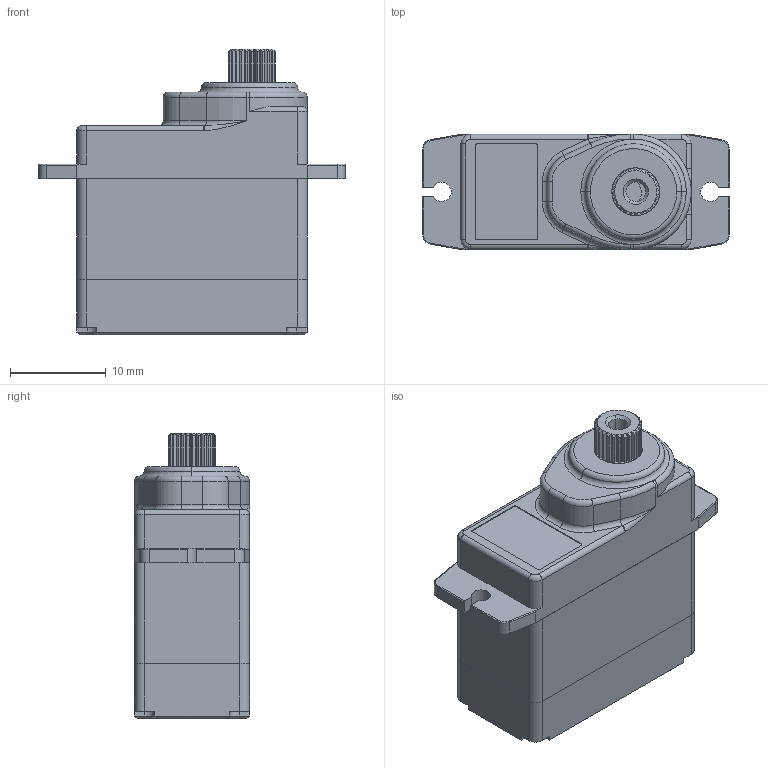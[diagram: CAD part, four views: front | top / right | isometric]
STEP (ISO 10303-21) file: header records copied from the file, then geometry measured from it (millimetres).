
FILE_DESCRIPTION (( 'STEP AP214' ), '1' );
FILE_NAME ('DS113 V6.0_DM_202212.STEP', '2023-11-04T06:43:57', ( '' ), ( '' ), 'SwSTEP 2.0', 'SolidWorks 2016', '' );
FILE_SCHEMA (( 'AUTOMOTIVE_DESIGN' ));
Length unit declared in the file: millimetre
Products named in the file (1): DS113 V6.0_DM_202212
Bounding box: 32 x 12 x 29.8 mm (x, y, z)
Surface area: 2717.7 mm2 (no closed solid volume)
Topology: 0 solids, 4 shells, 403 faces, 1135 edges, 727 vertices
Faces by surface type: plane 207, cylinder 137, cone 32, torus 21, bspline 6
Entity records: 17492 total; most frequent: CARTESIAN_POINT 2615, DIRECTION 2207, ORIENTED_EDGE 2104, EDGE_CURVE 1131, AXIS2_PLACEMENT_3D 745, VERTEX_POINT 727, VECTOR 717, LINE 717
